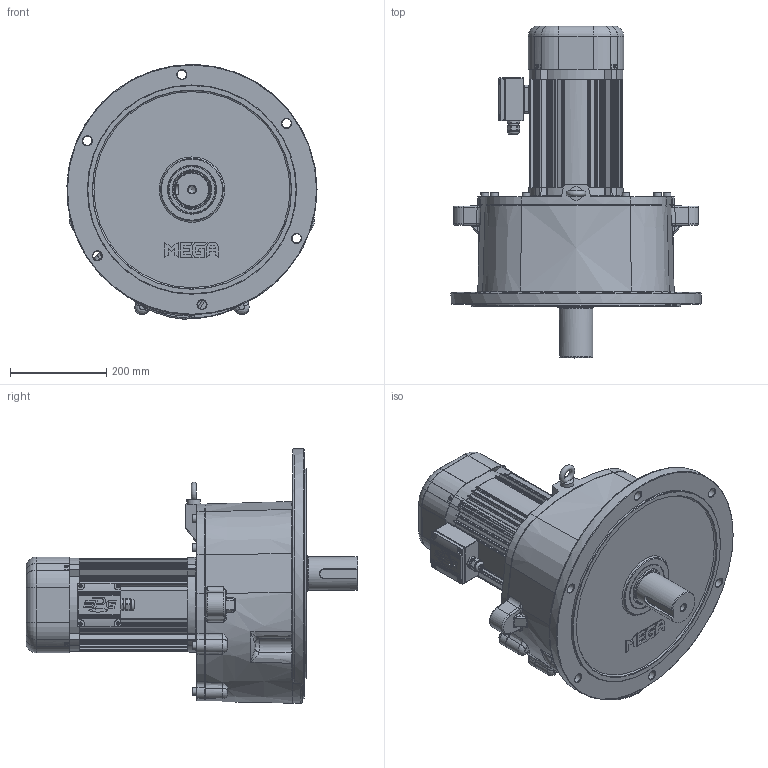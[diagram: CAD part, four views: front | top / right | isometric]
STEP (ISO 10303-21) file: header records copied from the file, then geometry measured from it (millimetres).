
FILE_DESCRIPTION(/* description */ (''),/* implementation_level */ '2;1');
FILE_NAME(/* name */ 'Z:\동력 3D 파일\PMK270_2.2kW_Brake_3D.stp',/* time_stamp */ '2021-12-01T09:31:05+09:00',/* author */ ('jaebok'),/* organization */ (''),/* preprocessor_version */ 'ST-DEVELOPER v18.1',/* originating_system */ 'Autodesk Inventor 2022',/* authorisation */ '');
FILE_SCHEMA (('AUTOMOTIVE_DESIGN { 1 0 10303 214 3 1 1 }'));
Products named in the file (1): 부품15
Bounding box: 519.84 x 690.1 x 529.84 mm (x, y, z)
Volume: 17358630.8 mm3; surface area: 2327216 mm2
Topology: 10 solids, 33 shells, 2842 faces, 7177 edges, 4388 vertices
Faces by surface type: plane 1005, cylinder 864, bspline 426, torus 225, cone 207, sphere 115
Full cylindrical faces by diameter (mm): 3.242 x4, 3.25 x1, 3.6 x4, 4 x21, 5 x13, 6 x5, 6.647 x4, 7 x8, 8 x5, 9 x4, 10 x10, 10.106 x2, 12 x9, 12.5 x1, 13.835 x9, 15 x1, 16 x9, 17 x8, 19 x6, 20 x2, 21 x1, 23.6 x1, 24 x1, 25 x1, 28 x1, 36 x1, 48 x1, 55 x1, 60 x1, 62 x1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
Entity records: 110092 total; most frequent: CARTESIAN_POINT 40673, ORIENTED_EDGE 14078, DIRECTION 14042, EDGE_CURVE 7039, AXIS2_PLACEMENT_3D 5577, VERTEX_POINT 4391, EDGE_LOOP 3090, CIRCLE 3025
